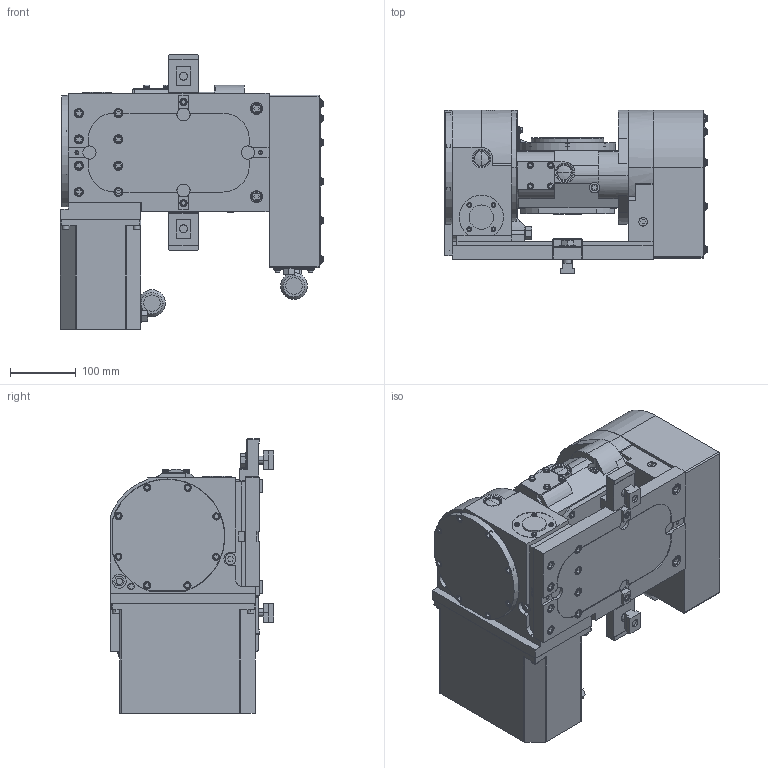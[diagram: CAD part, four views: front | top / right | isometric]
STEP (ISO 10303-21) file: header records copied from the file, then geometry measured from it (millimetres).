
FILE_DESCRIPTION (( 'STEP AP214' ), '1' );
FILE_NAME ('【掲載用】TT101Quinte.STEP', '2019-10-11T07:14:37', ( '' ), ( '' ), 'SwSTEP 2.0', 'SolidWorks 2017', '' );
FILE_SCHEMA (( 'AUTOMOTIVE_DESIGN' ));
Length unit declared in the file: millimetre
Products named in the file (18): クランプ(61E4491610)TT100D01; TABLE(61E392550)TT101A00; BODY(61E114135)TT101A00; BASE_TT101AV; キタガワシール; KQ2E06-01; 働乕僽儖N29ZSZ2562; モータケース(61E2819000)TT101AV21; モータケース(61E2708011)TT101AV00; BASE(61E110383)TT101A00; パッキングプレートPAD(61E4486871)TT101A00_回転モデル; ササエPAD(61E3693076)TT101A00_回転モデル; ケイシャホンタイASSY(61E2451194)TT101A00_回転モデル; 【掲載用】TT101Quinte; Tスロットナット１４１２; CLAMPING PARTS(61E4491250)TT100D01; B パーカ　M12×40; Wヒラ　パーカ12
Assembly tree (20 placements, depth 4):
  【掲載用】TT101Quinte
    BASE_TT101AV
      BASE(61E110383)TT101A00
        ケイシャホンタイASSY(61E2451194)TT101A00_回転モデル
        ササエPAD(61E3693076)TT101A00_回転モデル
        パッキングプレートPAD(61E4486871)TT101A00_回転モデル
      モータケース(61E2708011)TT101AV00
      モータケース(61E2819000)TT101AV21
      働乕僽儖N29ZSZ2562  x2
      KQ2E06-01  x2
      キタガワシール
    BODY(61E114135)TT101A00
    TABLE(61E392550)TT101A00
    CLAMPING PARTS(61E4491250)TT100D01  x2
      クランプ(61E4491610)TT100D01
      Wヒラ　パーカ12
      B パーカ　M12×40
      Tスロットナット１４１２
Bounding box: 399.8 x 249 x 418 mm (x, y, z)
Volume: 17886146.8 mm3; surface area: 1102039.8 mm2
Topology: 20 solids, 20 shells, 3346 faces, 8624 edges, 5614 vertices
Faces by surface type: plane 2410, cylinder 640, cone 188, torus 82, bspline 18, sphere 8
Entity records: 108755 total; most frequent: CARTESIAN_POINT 17991, ORIENTED_EDGE 16280, DIRECTION 15899, EDGE_CURVE 8140, VECTOR 6591, LINE 6591, VERTEX_POINT 5326, AXIS2_PLACEMENT_3D 4654
